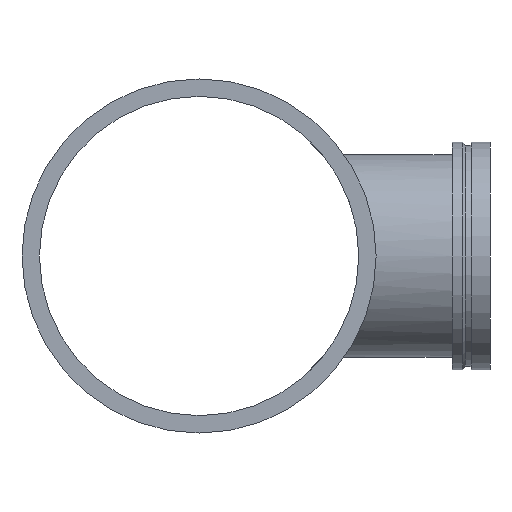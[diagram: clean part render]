
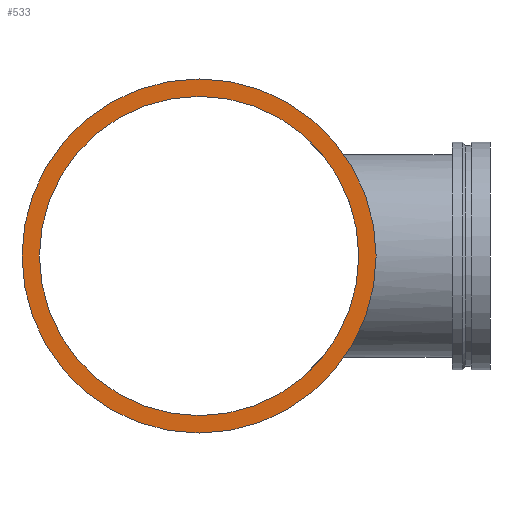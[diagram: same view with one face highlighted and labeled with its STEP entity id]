
A CAD part, left-side view. The second image highlights one B-rep face of the part: STEP entity #533.
In plain terms, the highlighted planar face has unit normal (-1, 0, 0).
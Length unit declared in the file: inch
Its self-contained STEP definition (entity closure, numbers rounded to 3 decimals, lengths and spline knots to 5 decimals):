
#58=FACE_BOUND('',#128,.T.);
#67=PLANE('',#626);
#92=FACE_OUTER_BOUND('',#127,.T.);
#127=EDGE_LOOP('',(#465,#466));
#128=EDGE_LOOP('',(#467,#468));
#151=CIRCLE('',#587,14.);
#152=CIRCLE('',#588,14.);
#175=CIRCLE('',#624,12.625);
#176=CIRCLE('',#625,12.625);
#239=VERTEX_POINT('',#1097);
#240=VERTEX_POINT('',#1099);
#263=VERTEX_POINT('',#1166);
#264=VERTEX_POINT('',#1168);
#299=EDGE_CURVE('',#239,#240,#151,.T.);
#300=EDGE_CURVE('',#240,#239,#152,.T.);
#331=EDGE_CURVE('',#264,#263,#175,.T.);
#332=EDGE_CURVE('',#263,#264,#176,.T.);
#465=ORIENTED_EDGE('',*,*,#300,.F.);
#466=ORIENTED_EDGE('',*,*,#299,.F.);
#467=ORIENTED_EDGE('',*,*,#331,.T.);
#468=ORIENTED_EDGE('',*,*,#332,.T.);
#533=ADVANCED_FACE('',(#92,#58),#67,.T.);
#587=AXIS2_PLACEMENT_3D('',#1100,#716,#717);
#588=AXIS2_PLACEMENT_3D('',#1101,#718,#719);
#624=AXIS2_PLACEMENT_3D('',#1169,#798,#799);
#625=AXIS2_PLACEMENT_3D('',#1170,#800,#801);
#626=AXIS2_PLACEMENT_3D('',#1171,#802,#803);
#716=DIRECTION('center_axis',(1.,0.,0.));
#717=DIRECTION('ref_axis',(0.,0.,1.));
#718=DIRECTION('center_axis',(1.,0.,0.));
#719=DIRECTION('ref_axis',(0.,0.,1.));
#798=DIRECTION('center_axis',(1.,0.,0.));
#799=DIRECTION('ref_axis',(0.,0.,1.));
#800=DIRECTION('center_axis',(1.,0.,0.));
#801=DIRECTION('ref_axis',(0.,0.,1.));
#802=DIRECTION('center_axis',(-1.,0.,0.));
#803=DIRECTION('ref_axis',(0.,0.,-1.));
#1097=CARTESIAN_POINT('',(-25.5,14.,0.));
#1099=CARTESIAN_POINT('',(-25.5,-14.,0.));
#1100=CARTESIAN_POINT('Origin',(-25.5,0.,0.));
#1101=CARTESIAN_POINT('Origin',(-25.5,0.,0.));
#1166=CARTESIAN_POINT('',(-25.5,12.625,0.));
#1168=CARTESIAN_POINT('',(-25.5,-12.625,0.));
#1169=CARTESIAN_POINT('Origin',(-25.5,0.,0.));
#1170=CARTESIAN_POINT('Origin',(-25.5,0.,0.));
#1171=CARTESIAN_POINT('Origin',(-25.5,-14.,0.));
